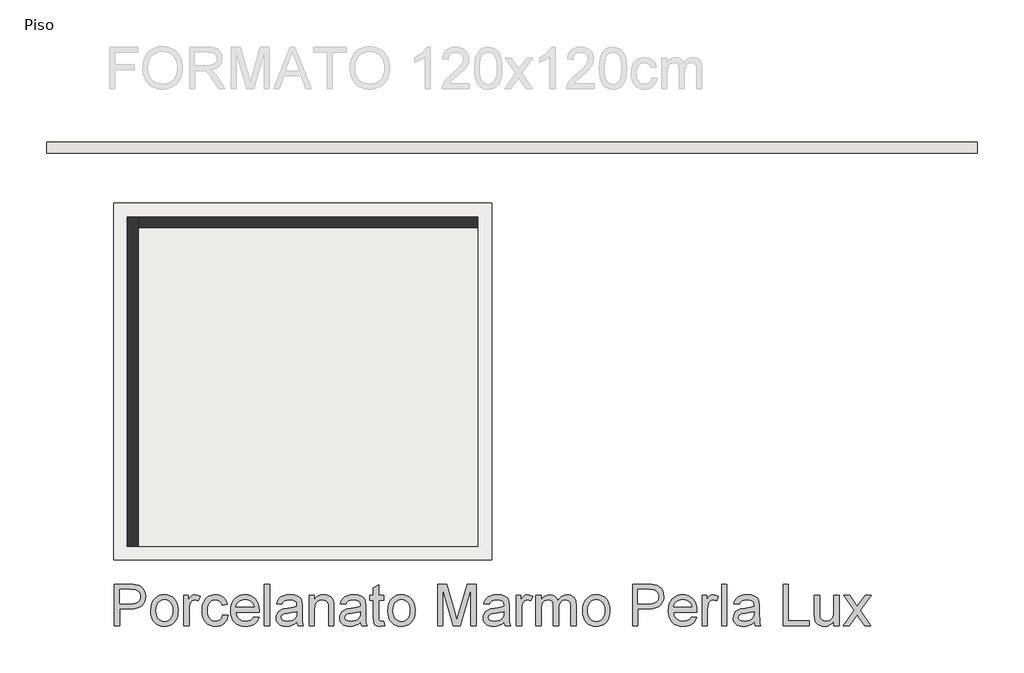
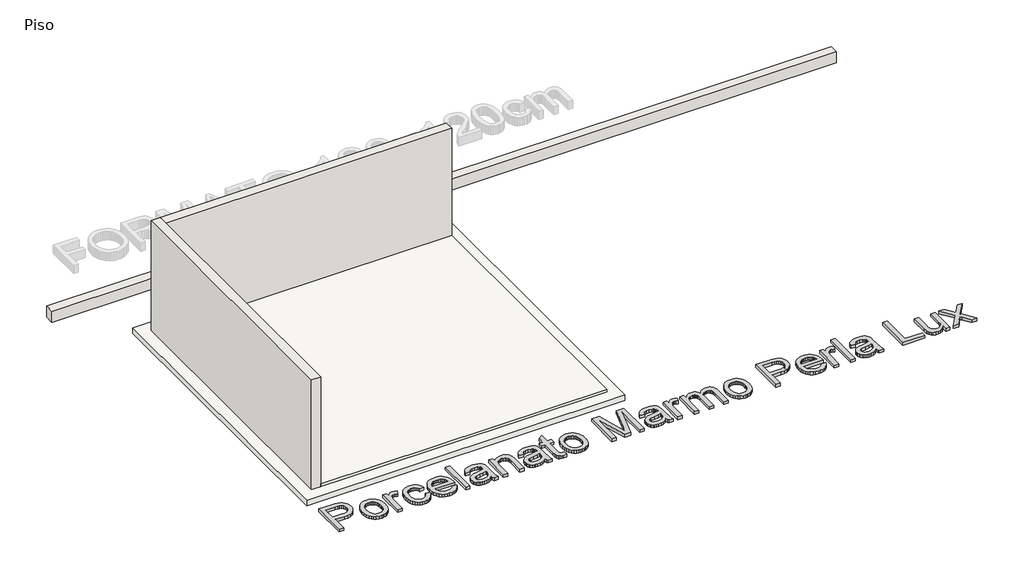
# One storey, part 1 of 2: 3 walls, 2 slabs, 1 proxy.
"""IFC4 building model written with IfcOpenShell, lengths in millimetres."""

from ifc_helpers import new_model, si_unit, frame, origin, origin_with_axes, place, context, project, spatial, polyline, outline, extrude, faceted_brep, element, save

model = new_model("IFC4")

# Units and contexts
model_context = context("Model", 3, world=origin())
ifc_project = project(units=[si_unit("LENGTHUNIT", "METRE", prefix="MILLI")], contexts=[model_context])

# Site, building, storey
site = spatial("IfcSite", under=ifc_project)
building = spatial("IfcBuilding", under=site)
storey = spatial("IfcBuildingStorey", under=building, Name="Piso", Elevation=0.0)

# Proxy
placement = place(None, origin())
element("IfcBuildingElementProxy", 1, Name="600mm Arial", ObjectType="600mm Arial", at=placement, inside=storey, context=model_context, shape_type="SweptSolid", body=[
    extrude(outline(polyline([(92670.4066074, -5092.68876), (92670.4066074, -4489.9508991), (92893.7845549, -4489.9508991), (92945.803069, -4491.3856389), (92983.8420673, -4495.6898582), (93023.9963871, -4506.4136184), (93057.0505843, -4523.869619), (93083.6668467, -4548.8488065), (93104.5073617, -4582.1421271), (93117.9718427, -4621.4135301), (93122.4600031, -4664.3269648), (93119.4295751, -4701.3266965), (93110.3382913, -4735.3649781), (93095.1861516, -4766.4418096), (93073.9731561, -4794.5571911), (93044.8506977, -4817.8625155), (93005.9701693, -4834.5091758), (92957.331571, -4844.4971719), (92898.9349028, -4847.826504), (92745.74884, -4847.826504), (92745.74884, -5092.68876), (92670.4066074, -5092.68876)]), holes=[polyline([(92745.74884, -4772.4842714), (92903.3494867, -4772.4842714), (92939.5858633, -4770.755226), (92970.1568571, -4765.5680899), (92995.0624681, -4756.922863), (93014.3026965, -4744.8195453), (93028.6592913, -4729.5800337), (93038.914002, -4711.5262248), (93045.0668283, -4690.6581186), (93047.1177704, -4666.9757152), (93042.2801222, -4633.1305716), (93027.7671775, -4604.5829288), (93005.3815581, -4583.0986203), (92976.9258858, -4570.4434796), (92947.8632082, -4566.5807187), (92901.5836532, -4565.2931317), (92745.74884, -4565.2931317), (92745.74884, -4772.4842714)])]), origin_with_axes(), (0.0, 0.0, 1.0), 50.0),
    extrude(outline(polyline([(93197.8022357, -4871.3709517), (93201.8765288, -4814.0457398), (93214.0994081, -4764.6483849), (93234.4708735, -4723.178887), (93262.9909252, -4689.6372461), (93291.7041149, -4668.1989228), (93323.3971488, -4652.8858348), (93358.0700269, -4643.6979819), (93395.7227491, -4640.6353643), (93437.288816, -4644.364768), (93474.8725603, -4655.5529792), (93508.4739821, -4674.1999978), (93538.0930812, -4700.3058239), (93562.2675268, -4732.9875407), (93579.534988, -4771.3622313), (93589.8954647, -4815.4298958), (93593.3489569, -4865.1905342), (93591.8222466, -4905.5195979), (93587.2421158, -4941.305319), (93579.6085644, -4972.5476974), (93568.9215924, -4999.2467332), (93555.3145571, -5022.3083358), (93538.9208157, -5042.6384145), (93519.7403682, -5060.2369695), (93497.7732145, -5075.1040006), (93473.8746804, -5086.9176112), (93448.9000915, -5095.3559045), (93422.8494477, -5100.4188804), (93395.7227491, -5102.1065391), (93353.5496769, -5098.3909309), (93315.6164446, -5087.2441065), (93281.9230524, -5068.6660657), (93252.4695002, -5042.6568086), (93228.5525719, -5009.6577937), (93211.4690518, -4970.1104792), (93201.2189397, -4924.0148652), (93197.8022357, -4871.3709517)]), holes=[polyline([(93273.1444683, -4871.2237989), (93275.3241691, -4907.7682766), (93281.8632716, -4939.4107267), (93292.7617757, -4966.1511492), (93308.0196814, -4987.9895442), (93326.5793281, -5004.9535027), (93347.3830549, -5017.0706159), (93370.4308619, -5024.3408838), (93395.7227491, -5026.7643065), (93420.8858775, -5024.3270882), (93443.841714, -5017.0154336), (93464.5902586, -5004.8293425), (93483.1315111, -4987.768815), (93498.3894169, -4965.7142894), (93509.287921, -4938.546204), (93515.8270235, -4906.2645589), (93518.0067243, -4868.8693541), (93515.8132279, -4833.4837047), (93509.2327387, -4802.6689891), (93498.2652567, -4776.4252073), (93482.9107819, -4754.7523592), (93464.3005515, -4737.7884007), (93443.5658026, -4725.6712875), (93420.7065351, -4718.4010196), (93395.7227491, -4715.9775969), (93370.4308619, -4718.3918225), (93347.3830549, -4725.6344993), (93326.5793281, -4737.7056273), (93308.0196814, -4754.6052064), (93292.7617757, -4776.379222), (93281.8632716, -4803.0736593), (93275.3241691, -4834.6885182), (93273.1444683, -4871.2237989)])]), origin_with_axes(), (0.0, 0.0, 1.0), 50.0),
    extrude(outline(polyline([(93678.1089686, -5092.68876), (93678.1089686, -4650.0531434), (93744.0334221, -4650.0531434), (93744.0334221, -4715.5361385), (93768.3872102, -4677.5707166), (93790.8280119, -4655.2034913), (93813.34239, -4644.2773961), (93837.9169073, -4640.6353643), (93875.4408708, -4646.4478998), (93913.5534455, -4663.8855064), (93888.390317, -4731.4286407), (93861.9028134, -4719.8403579), (93835.4153097, -4715.9775969), (93812.9193257, -4719.6932051), (93792.8145747, -4730.8400295), (93776.5725846, -4748.5719417), (93765.6648834, -4772.042813), (93756.5046217, -4814.1285132), (93753.4512012, -4860.0401862), (93753.4512012, -5092.68876), (93678.1089686, -5092.68876)])), origin_with_axes(), (0.0, 0.0, 1.0), 50.0),
    extrude(outline(polyline([(94243.1757132, -4932.5865157), (94318.5179458, -4942.0042948), (94310.3233743, -4977.5554911), (94297.5118839, -5009.0140002), (94280.0834743, -5036.3798221), (94258.0381458, -5059.6529568), (94232.3048002, -5078.2263991), (94203.8123397, -5091.4931435), (94172.5607642, -5099.4531902), (94138.5500737, -5102.1065391), (94096.2942281, -5098.4047265), (94058.4069811, -5087.2992888), (94024.8883328, -5068.7902259), (93995.7382832, -5042.8775378), (93972.1432517, -5010.0486683), (93955.2896578, -4970.7910609), (93945.1775015, -4925.1047156), (93941.8067827, -4872.9896325), (93947.5641359, -4805.9431388), (93954.7608275, -4775.7722167), (93964.8361956, -4747.8361777), (93977.8592182, -4722.6960419), (93993.8988732, -4700.9128292), (94012.9551606, -4682.4865398), (94035.0280803, -4667.4171736), (94059.1197525, -4655.700132), (94084.2322972, -4647.3308166), (94110.3657144, -4642.3092274), (94137.5200042, -4640.6353643), (94170.9466819, -4642.9346268), (94201.1819834, -4649.8324142), (94228.2259086, -4661.3287265), (94252.0784575, -4677.4235638), (94272.3349598, -4697.7490441), (94288.5907455, -4721.9372852), (94300.8458144, -4749.9882874), (94309.1001667, -4781.9020505), (94233.7579341, -4791.3198295), (94220.091118, -4758.4495733), (94198.8091445, -4734.8867315), (94171.0892362, -4720.7048806), (94138.1086153, -4715.9775969), (94112.508627, -4718.3044505), (94089.4194333, -4725.2850114), (94068.8410342, -4736.9192795), (94050.7734297, -4753.2072548), (94036.0627484, -4774.5260165), (94025.5551189, -4801.2526434), (94019.2505412, -4833.3871357), (94017.1490153, -4870.9294933), (94019.204556, -4909.0374695), (94025.3711779, -4941.5444423), (94035.6488812, -4968.4504117), (94050.0376657, -4989.7553777), (94067.7465852, -5005.946784), (94087.9846935, -5017.5120743), (94110.7519905, -5024.4512484), (94136.0484762, -5026.7643065), (94175.0623618, -5020.9885591), (94191.9343498, -5013.768875), (94207.0497012, -5003.6613172), (94219.9853519, -4990.5555211), (94230.3182374, -4974.3411221), (94238.0483579, -4955.0181203), (94243.1757132, -4932.5865157)])), origin_with_axes(), (0.0, 0.0, 1.0), 50.0),
    extrude(outline(polyline([(94694.3461921, -4960.8398529), (94768.2168967, -4970.257632), (94756.8907298, -4999.8445415), (94741.6006343, -5025.9181779), (94722.3466104, -5048.4785412), (94699.128658, -5067.5256315), (94672.1859004, -5082.6547786), (94641.7574608, -5093.4613122), (94607.8433394, -5099.9452323), (94570.4435361, -5102.1065391), (94523.6949315, -5098.3771353), (94482.0414926, -5087.1889242), (94445.4832194, -5068.5419055), (94414.0201117, -5042.4360794), (94388.7190275, -5009.5980129), (94370.6468245, -4970.7542727), (94359.8035027, -4925.9048589), (94356.1890621, -4875.0497716), (94359.8402909, -4822.4702375), (94370.7939773, -4776.1263031), (94389.0501213, -4736.0179686), (94414.6087229, -4702.1452339), (94445.9890571, -4675.234666), (94481.7103988, -4656.0128317), (94521.7727481, -4644.4797312), (94566.1761049, -4640.6353643), (94609.1493205, -4644.4705341), (94648.0114548, -4655.9760435), (94682.7625077, -4675.1518925), (94713.4024794, -4701.9980811), (94738.4138566, -4735.7972394), (94756.2791259, -4775.8319975), (94766.9982876, -4822.1023555), (94770.5713415, -4874.6083132), (94770.1298831, -4894.9153994), (94431.5312947, -4894.9153994), (94435.8952949, -4924.9805554), (94444.5727114, -4951.3117092), (94457.5635444, -4973.9088608), (94474.8677937, -4992.7720101), (94495.5289663, -5007.6436398), (94518.5905689, -5018.2662324), (94544.0526014, -5024.6397879), (94571.9150641, -5026.7643065), (94612.0142015, -5022.8279691), (94645.7857687, -5011.0189571), (94673.2297655, -4990.6015063), (94694.3461921, -4960.8398529)]), holes=[polyline([(94431.5312947, -4819.5731668), (94695.2291088, -4819.5731668), (94685.0387776, -4779.7683349), (94676.273989, -4764.114956), (94665.0627852, -4751.2942685), (94644.5165758, -4735.8432247), (94621.137675, -4724.8067648), (94594.9260829, -4718.1848889), (94565.8817993, -4715.9775969), (94539.3896972, -4717.738832), (94515.0956899, -4723.0225371), (94492.9997776, -4731.8287124), (94473.1019602, -4744.1573578), (94456.4047161, -4759.4382561), (94443.9105238, -4777.1011904), (94435.6193834, -4797.1461606), (94431.5312947, -4819.5731668)])]), origin_with_axes(), (0.0, 0.0, 1.0), 50.0),
    extrude(outline(polyline([(94845.9135741, -5092.68876), (94845.9135741, -4489.9508991), (94921.2558067, -4489.9508991), (94921.2558067, -5092.68876), (94845.9135741, -5092.68876)])), origin_with_axes(), (0.0, 0.0, 1.0), 50.0),
    extrude(outline(polyline([(95316.8025279, -5036.1820855), (95280.8052747, -5067.0473849), (95243.7411637, -5087.2441065), (95204.7640663, -5098.3909309), (95163.0278539, -5102.1065391), (95129.4816145, -5099.8716559), (95100.0648504, -5093.1670066), (95074.7775618, -5081.992591), (95053.6197485, -5066.3484091), (95036.9133074, -5047.2277424), (95024.9801352, -5025.6238723), (95017.8202319, -5001.5367986), (95015.4335974, -4974.9665215), (95019.038841, -4943.7333401), (95029.8545717, -4915.3696383), (95046.5380201, -4891.0894266), (95067.7464172, -4872.1067157), (95092.6704223, -4857.7593179), (95120.5006953, -4847.3850456), (95185.6893848, -4836.0542802), (95262.7238746, -4824.1349035), (95316.3610695, -4810.1553877), (95316.8025279, -4793.3799687), (95311.6153918, -4759.7555544), (95305.1314716, -4747.3027488), (95296.0539834, -4737.756211), (95280.3638163, -4728.2280674), (95261.2523466, -4721.4222505), (95212.7654997, -4715.9775969), (95167.8838962, -4719.6012346), (95136.5403503, -4730.4721475), (95115.1664063, -4750.5768986), (95100.1936091, -4781.9020505), (95024.8513765, -4772.4842714), (95037.9295814, -4731.2814879), (95057.4457213, -4698.9078723), (95085.2208119, -4674.1494141), (95123.0758692, -4655.7921025), (95169.3738183, -4644.4245489), (95222.4775843, -4640.6353643), (95273.4108466, -4643.9830905), (95313.7858955, -4654.0262689), (95344.2281306, -4669.1278248), (95365.3629513, -4687.6506833), (95379.3792553, -4710.5513375), (95388.4659406, -4738.7862806), (95392.1447605, -4804.7107342), (95392.1447605, -4898.4470665), (95395.9707333, -5029.3394804), (95401.636116, -5061.6947019), (95410.9803187, -5092.68876), (95335.638086, -5092.68876), (95323.5715566, -5066.4955619), (95316.8025279, -5036.1820855)]), holes=[polyline([(95316.8025279, -4885.4976203), (95266.1819654, -4898.0423963), (95195.2543167, -4908.6006096), (95130.4335091, -4920.8142918), (95113.5661197, -4929.1652131), (95101.0765259, -4940.6799196), (95093.351004, -4954.4754944), (95090.7758301, -4969.6690208), (95096.3860305, -4992.0730343), (95113.2166318, -5010.4303459), (95140.8997519, -5022.6808163), (95179.0675089, -5026.7643065), (95219.5345284, -5022.257752), (95255.2926583, -5008.7380887), (95284.2817595, -4988.8172786), (95304.4416929, -4965.1072841), (95313.3812253, -4940.6799196), (95316.3610695, -4906.834776), (95316.8025279, -4885.4976203)])]), origin_with_axes(), (0.0, 0.0, 1.0), 50.0),
    extrude(outline(polyline([(95495.7403303, -5092.68876), (95495.7403303, -4650.0531434), (95571.082563, -4650.0531434), (95571.082563, -4711.8573186), (95597.2573669, -4680.6977136), (95628.6928834, -4658.4408529), (95665.3891124, -4645.0867365), (95707.346054, -4640.6353643), (95744.4837414, -4644.2222138), (95778.4944318, -4654.9827621), (95806.8581337, -4671.5742401), (95827.0548552, -4692.6538784), (95840.7584595, -4718.1664948), (95849.6428097, -4748.0569069), (95853.6159353, -4820.897542), (95853.6159353, -5092.68876), (95778.2737026, -5092.68876), (95778.2737026, -4831.051085), (95776.1031989, -4792.0923817), (95769.5916876, -4764.3908675), (95757.5803404, -4744.5436339), (95738.9103292, -4729.1477724), (95714.9796054, -4719.2701408), (95687.1861206, -4715.9775969), (95664.3084591, -4717.826204), (95643.0586753, -4723.372025), (95623.4367694, -4732.6150602), (95605.4427413, -4745.5553093), (95590.4101633, -4763.6643006), (95579.6726075, -4788.4135618), (95573.2300741, -4819.803093), (95571.082563, -4857.8328943), (95571.082563, -5092.68876), (95495.7403303, -5092.68876)])), origin_with_axes(), (0.0, 0.0, 1.0), 50.0),
    extrude(outline(polyline([(96239.7448774, -5036.1820855), (96203.7476242, -5067.0473849), (96166.6835131, -5087.2441065), (96127.7064158, -5098.3909309), (96085.9702034, -5102.1065391), (96052.423964, -5099.8716559), (96023.0071999, -5093.1670066), (95997.7199113, -5081.992591), (95976.562098, -5066.3484091), (95959.8556569, -5047.2277424), (95947.9224847, -5025.6238723), (95940.7625814, -5001.5367986), (95938.3759469, -4974.9665215), (95941.9811905, -4943.7333401), (95952.7969212, -4915.3696383), (95969.4803696, -4891.0894266), (95990.6887667, -4872.1067157), (96015.6127718, -4857.7593179), (96043.4430448, -4847.3850456), (96108.6317343, -4836.0542802), (96185.6662241, -4824.1349035), (96239.303419, -4810.1553877), (96239.7448774, -4793.3799687), (96234.5577413, -4759.7555544), (96228.0738211, -4747.3027488), (96218.9963329, -4737.756211), (96203.3061658, -4728.2280674), (96184.1946961, -4721.4222505), (96135.7078492, -4715.9775969), (96090.8262457, -4719.6012346), (96059.4826998, -4730.4721475), (96038.1087558, -4750.5768986), (96023.1359586, -4781.9020505), (95947.793726, -4772.4842714), (95960.8719309, -4731.2814879), (95980.3880708, -4698.9078723), (96008.1631614, -4674.1494141), (96046.0182187, -4655.7921025), (96092.3161678, -4644.4245489), (96145.4199338, -4640.6353643), (96196.3531961, -4643.9830905), (96236.728245, -4654.0262689), (96267.1704801, -4669.1278248), (96288.3053008, -4687.6506833), (96302.3216048, -4710.5513375), (96311.4082901, -4738.7862806), (96315.08711, -4804.7107342), (96315.08711, -4898.4470665), (96318.9130828, -5029.3394804), (96324.5784655, -5061.6947019), (96333.9226682, -5092.68876), (96258.5804355, -5092.68876), (96246.5139061, -5066.4955619), (96239.7448774, -5036.1820855)]), holes=[polyline([(96239.7448774, -4885.4976203), (96189.1243149, -4898.0423963), (96118.1966662, -4908.6006096), (96053.3758586, -4920.8142918), (96036.5084692, -4929.1652131), (96024.0188754, -4940.6799196), (96016.2933535, -4954.4754944), (96013.7181796, -4969.6690208), (96019.32838, -4992.0730343), (96036.1589813, -5010.4303459), (96063.8421014, -5022.6808163), (96102.0098584, -5026.7643065), (96142.4768779, -5022.257752), (96178.2350078, -5008.7380887), (96207.224109, -4988.8172786), (96227.3840424, -4965.1072841), (96236.3235748, -4940.6799196), (96239.303419, -4906.834776), (96239.7448774, -4885.4976203)])]), origin_with_axes(), (0.0, 0.0, 1.0), 50.0),
    extrude(outline(polyline([(96578.7849241, -5029.8545152), (96588.2027032, -5094.896052), (96531.8431816, -5102.1065391), (96495.6803814, -5098.9795421), (96468.7146312, -5089.5985512), (96449.6583438, -5075.1407888), (96437.2239324, -5056.7834773), (96430.3813273, -5025.2559903), (96428.1004589, -4971.2877016), (96428.1004589, -4725.395376), (96371.5937845, -4725.395376), (96371.5937845, -4650.0531434), (96428.1004589, -4650.0531434), (96428.1004589, -4542.484448), (96503.4426915, -4498.1914558), (96503.4426915, -4650.0531434), (96578.7849241, -4650.0531434), (96578.7849241, -4725.395376), (96503.4426915, -4725.395376), (96503.4426915, -4969.0804096), (96507.4158171, -5007.9287483), (96520.2916869, -5021.6875349), (96531.1625999, -5025.4951136), (96545.9698502, -5026.7643065), (96578.7849241, -5029.8545152)])), origin_with_axes(), (0.0, 0.0, 1.0), 50.0),
    extrude(outline(polyline([(96635.2915986, -4871.3709517), (96639.3658917, -4814.0457398), (96651.588771, -4764.6483849), (96671.9602365, -4723.178887), (96700.4802882, -4689.6372461), (96729.1934779, -4668.1989228), (96760.8865118, -4652.8858348), (96795.5593898, -4643.6979819), (96833.212112, -4640.6353643), (96874.7781789, -4644.364768), (96912.3619233, -4655.5529792), (96945.963345, -4674.1999978), (96975.5824441, -4700.3058239), (96999.7568898, -4732.9875407), (97017.0243509, -4771.3622313), (97027.3848276, -4815.4298958), (97030.8383198, -4865.1905342), (97029.3116095, -4905.5195979), (97024.7314787, -4941.305319), (97017.0979273, -4972.5476974), (97006.4109553, -4999.2467332), (96992.80392, -5022.3083358), (96976.4101786, -5042.6384145), (96957.2297311, -5060.2369695), (96935.2625775, -5075.1040006), (96911.3640434, -5086.9176112), (96886.3894544, -5095.3559045), (96860.3388106, -5100.4188804), (96833.212112, -5102.1065391), (96791.0390398, -5098.3909309), (96753.1058076, -5087.2441065), (96719.4124153, -5068.6660657), (96689.9588631, -5042.6568086), (96666.0419349, -5009.6577937), (96648.9584147, -4970.1104792), (96638.7083026, -4924.0148652), (96635.2915986, -4871.3709517)]), holes=[polyline([(96710.6338312, -4871.2237989), (96712.813532, -4907.7682766), (96719.3526345, -4939.4107267), (96730.2511386, -4966.1511492), (96745.5090444, -4987.9895442), (96764.068691, -5004.9535027), (96784.8724178, -5017.0706159), (96807.9202248, -5024.3408838), (96833.212112, -5026.7643065), (96858.3752405, -5024.3270882), (96881.331077, -5017.0154336), (96902.0796215, -5004.8293425), (96920.6208741, -4987.768815), (96935.8787798, -4965.7142894), (96946.7772839, -4938.546204), (96953.3163864, -4906.2645589), (96955.4960872, -4868.8693541), (96953.3025908, -4833.4837047), (96946.7221016, -4802.6689891), (96935.7546196, -4776.4252073), (96920.4001449, -4754.7523592), (96901.7899144, -4737.7884007), (96881.0551655, -4725.6712875), (96858.195898, -4718.4010196), (96833.212112, -4715.9775969), (96807.9202248, -4718.3918225), (96784.8724178, -4725.6344993), (96764.068691, -4737.7056273), (96745.5090444, -4754.6052064), (96730.2511386, -4776.379222), (96719.3526345, -4803.0736593), (96712.813532, -4834.6885182), (96710.6338312, -4871.2237989)])]), origin_with_axes(), (0.0, 0.0, 1.0), 50.0),
    extrude(outline(polyline([(97360.4605875, -5092.68876), (97360.4605875, -4489.9508991), (97490.1022026, -4489.9508991), (97613.4162474, -4914.7810271), (97638.2850703, -5003.5141644), (97665.2140323, -4907.4233872), (97786.4679379, -4489.9508991), (97916.109553, -4489.9508991), (97916.109553, -5092.68876), (97840.7673204, -5092.68876), (97840.7673204, -4565.2931317), (97689.3470912, -5092.68876), (97587.2230493, -5092.68876), (97435.8028201, -4565.2931317), (97435.8028201, -5092.68876), (97360.4605875, -5092.68876)])), origin_with_axes(), (0.0, 0.0, 1.0), 50.0),
    extrude(outline(polyline([(98321.0740533, -5036.1820855), (98285.0768001, -5067.0473849), (98248.0126891, -5087.2441065), (98209.0355917, -5098.3909309), (98167.2993793, -5102.1065391), (98133.7531399, -5099.8716559), (98104.3363758, -5093.1670066), (98079.0490872, -5081.992591), (98057.891274, -5066.3484091), (98041.1848328, -5047.2277424), (98029.2516606, -5025.6238723), (98022.0917573, -5001.5367986), (98019.7051229, -4974.9665215), (98023.3103664, -4943.7333401), (98034.1260971, -4915.3696383), (98050.8095455, -4891.0894266), (98072.0179426, -4872.1067157), (98096.9419477, -4857.7593179), (98124.7722207, -4847.3850456), (98189.9609102, -4836.0542802), (98266.9954, -4824.1349035), (98320.6325949, -4810.1553877), (98321.0740533, -4793.3799687), (98315.8869172, -4759.7555544), (98309.402997, -4747.3027488), (98300.3255088, -4737.756211), (98284.6353417, -4728.2280674), (98265.523872, -4721.4222505), (98217.0370251, -4715.9775969), (98172.1554217, -4719.6012346), (98140.8118757, -4730.4721475), (98119.4379317, -4750.5768986), (98104.4651345, -4781.9020505), (98029.1229019, -4772.4842714), (98042.2011069, -4731.2814879), (98061.7172467, -4698.9078723), (98089.4923373, -4674.1494141), (98127.3473946, -4655.7921025), (98173.6453437, -4644.4245489), (98226.7491097, -4640.6353643), (98277.682372, -4643.9830905), (98318.0574209, -4654.0262689), (98348.499656, -4669.1278248), (98369.6344767, -4687.6506833), (98383.6507807, -4710.5513375), (98392.737466, -4738.7862806), (98396.4162859, -4804.7107342), (98396.4162859, -4898.4470665), (98400.2422587, -5029.3394804), (98405.9076414, -5061.6947019), (98415.2518441, -5092.68876), (98339.9096115, -5092.68876), (98327.843082, -5066.4955619), (98321.0740533, -5036.1820855)]), holes=[polyline([(98321.0740533, -4885.4976203), (98270.4534908, -4898.0423963), (98199.5258421, -4908.6006096), (98134.7050345, -4920.8142918), (98117.8376451, -4929.1652131), (98105.3480513, -4940.6799196), (98097.6225294, -4954.4754944), (98095.0473555, -4969.6690208), (98100.6575559, -4992.0730343), (98117.4881572, -5010.4303459), (98145.1712773, -5022.6808163), (98183.3390343, -5026.7643065), (98223.8060538, -5022.257752), (98259.5641837, -5008.7380887), (98288.5532849, -4988.8172786), (98308.7132183, -4965.1072841), (98317.6527507, -4940.6799196), (98320.6325949, -4906.834776), (98321.0740533, -4885.4976203)])]), origin_with_axes(), (0.0, 0.0, 1.0), 50.0),
    extrude(outline(polyline([(98500.0118558, -5092.68876), (98500.0118558, -4650.0531434), (98565.9363093, -4650.0531434), (98565.9363093, -4715.5361385), (98590.2900974, -4677.5707166), (98612.7308991, -4655.2034913), (98635.2452772, -4644.2773961), (98659.8197945, -4640.6353643), (98697.343758, -4646.4478998), (98735.4563327, -4663.8855064), (98710.2932042, -4731.4286407), (98683.8057005, -4719.8403579), (98657.3181969, -4715.9775969), (98634.8222129, -4719.6932051), (98614.7174619, -4730.8400295), (98598.4754718, -4748.5719417), (98587.5677706, -4772.042813), (98578.4075089, -4814.1285132), (98575.3540884, -4860.0401862), (98575.3540884, -5092.68876), (98500.0118558, -5092.68876)])), origin_with_axes(), (0.0, 0.0, 1.0), 50.0),
    extrude(outline(polyline([(98782.5452281, -5092.68876), (98782.5452281, -4650.0531434), (98857.8874607, -4650.0531434), (98857.8874607, -4722.8937784), (98880.5489916, -4689.434911), (98909.6852456, -4663.2233188), (98944.3029413, -4646.2823529), (98983.4087974, -4640.6353643), (99025.3105567, -4646.3927175), (99043.1436364, -4653.5894091), (99058.8981828, -4663.6647772), (99083.9877349, -4691.3111091), (99100.3952719, -4728.1912792), (99127.8576628, -4689.8855664), (99159.1828147, -4662.524343), (99194.3707276, -4646.107609), (99233.4214013, -4640.6353643), (99263.5831264, -4642.9116342), (99290.0568345, -4649.7404437), (99312.8425256, -4661.1217929), (99331.9401997, -4677.0556818), (99347.037157, -4697.7260514), (99357.820698, -4723.3168427), (99364.2908226, -4753.8280557), (99366.4475308, -4789.2596904), (99366.4475308, -5092.68876), (99291.1052982, -5092.68876), (99291.1052982, -4821.6333059), (99289.3578587, -4784.0541601), (99284.1155403, -4758.7254848), (99274.293091, -4741.3798487), (99258.805259, -4727.7498208), (99238.884449, -4718.9206529), (99215.7630656, -4715.9775969), (99194.4121143, -4717.8629922), (99174.9465582, -4723.5191778), (99157.3663974, -4732.946154), (99141.6716317, -4746.1439205), (99128.7635722, -4763.4987537), (99119.5435297, -4785.3969294), (99114.0115042, -4811.8384478), (99112.1674957, -4842.8233089), (99112.1674957, -5092.68876), (99036.8252631, -5092.68876), (99036.8252631, -4813.2455965), (99032.4658615, -4770.6448614), (99027.0166094, -4753.9246247), (99019.3876565, -4740.2578086), (99009.2755002, -4729.635216), (98996.3766378, -4722.0476498), (98980.6910692, -4717.4951102), (98962.2187945, -4715.9775969), (98933.1929051, -4720.0242989), (98906.447884, -4732.1644047), (98884.3749643, -4752.1036089), (98869.3653789, -4779.5476057), (98860.7569402, -4817.6233922), (98857.8874607, -4869.4579653), (98857.8874607, -5092.68876), (98782.5452281, -5092.68876)])), origin_with_axes(), (0.0, 0.0, 1.0), 50.0),
    extrude(outline(polyline([(99460.6253216, -4871.3709517), (99464.6996147, -4814.0457398), (99476.9224939, -4764.6483849), (99497.2939594, -4723.178887), (99525.8140111, -4689.6372461), (99554.5272008, -4668.1989228), (99586.2202347, -4652.8858348), (99620.8931128, -4643.6979819), (99658.545835, -4640.6353643), (99700.1119019, -4644.364768), (99737.6956462, -4655.5529792), (99771.297068, -4674.1999978), (99800.9161671, -4700.3058239), (99825.0906127, -4732.9875407), (99842.3580739, -4771.3622313), (99852.7185505, -4815.4298958), (99856.1720428, -4865.1905342), (99854.6453325, -4905.5195979), (99850.0652017, -4941.305319), (99842.4316503, -4972.5476974), (99831.7446783, -4999.2467332), (99818.137643, -5022.3083358), (99801.7439016, -5042.6384145), (99782.5634541, -5060.2369695), (99760.5963004, -5075.1040006), (99736.6977663, -5086.9176112), (99711.7231774, -5095.3559045), (99685.6725336, -5100.4188804), (99658.545835, -5102.1065391), (99616.3727627, -5098.3909309), (99578.4395305, -5087.2441065), (99544.7461383, -5068.6660657), (99515.292586, -5042.6568086), (99491.3756578, -5009.6577937), (99474.2921377, -4970.1104792), (99464.0420256, -4924.0148652), (99460.6253216, -4871.3709517)]), holes=[polyline([(99535.9675542, -4871.2237989), (99538.147255, -4907.7682766), (99544.6863575, -4939.4107267), (99555.5848616, -4966.1511492), (99570.8427673, -4987.9895442), (99589.402414, -5004.9535027), (99610.2061408, -5017.0706159), (99633.2539478, -5024.3408838), (99658.545835, -5026.7643065), (99683.7089634, -5024.3270882), (99706.6647999, -5017.0154336), (99727.4133445, -5004.8293425), (99745.954597, -4987.768815), (99761.2125028, -4965.7142894), (99772.1110069, -4938.546204), (99778.6501093, -4906.2645589), (99780.8298102, -4868.8693541), (99778.6363138, -4833.4837047), (99772.0558246, -4802.6689891), (99761.0883426, -4776.4252073), (99745.7338678, -4754.7523592), (99727.1236374, -4737.7884007), (99706.3888884, -4725.6712875), (99683.529621, -4718.4010196), (99658.545835, -4715.9775969), (99633.2539478, -4718.3918225), (99610.2061408, -4725.6344993), (99589.402414, -4737.7056273), (99570.8427673, -4754.6052064), (99555.5848616, -4776.379222), (99544.6863575, -4803.0736593), (99538.147255, -4834.6885182), (99535.9675542, -4871.2237989)])]), origin_with_axes(), (0.0, 0.0, 1.0), 50.0),
    extrude(outline(polyline([(100185.7943105, -5092.68876), (100185.7943105, -4489.9508991), (100409.1722579, -4489.9508991), (100461.190772, -4491.3856389), (100499.2297703, -4495.6898582), (100539.3840901, -4506.4136184), (100572.4382874, -4523.869619), (100599.0545497, -4548.8488065), (100619.8950648, -4582.1421271), (100633.3595458, -4621.4135301), (100637.8477061, -4664.3269648), (100634.8172782, -4701.3266965), (100625.7259944, -4735.3649781), (100610.5738547, -4766.4418096), (100589.3608592, -4794.5571911), (100560.2384007, -4817.8625155), (100521.3578724, -4834.5091758), (100472.7192741, -4844.4971719), (100414.3226059, -4847.826504), (100261.1365431, -4847.826504), (100261.1365431, -5092.68876), (100185.7943105, -5092.68876)]), holes=[polyline([(100261.1365431, -4772.4842714), (100418.7371898, -4772.4842714), (100454.9735663, -4770.755226), (100485.5445601, -4765.5680899), (100510.4501712, -4756.922863), (100529.6903995, -4744.8195453), (100544.0469944, -4729.5800337), (100554.301705, -4711.5262248), (100560.4545314, -4690.6581186), (100562.5054735, -4666.9757152), (100557.6678253, -4633.1305716), (100543.1548806, -4604.5829288), (100520.7692612, -4583.0986203), (100492.3135888, -4570.4434796), (100463.2509112, -4566.5807187), (100416.9713562, -4565.2931317), (100261.1365431, -4565.2931317), (100261.1365431, -4772.4842714)])]), origin_with_axes(), (0.0, 0.0, 1.0), 50.0),
    extrude(outline(polyline([(101041.9292896, -4960.8398529), (101115.7999943, -4970.257632), (101104.4738273, -4999.8445415), (101089.1837319, -5025.9181779), (101069.929708, -5048.4785412), (101046.7117556, -5067.5256315), (101019.7689979, -5082.6547786), (100989.3405584, -5093.4613122), (100955.426437, -5099.9452323), (100918.0266337, -5102.1065391), (100871.2780291, -5098.3771353), (100829.6245902, -5087.1889242), (100793.0663169, -5068.5419055), (100761.6032093, -5042.4360794), (100736.3021251, -5009.5980129), (100718.2299221, -4970.7542727), (100707.3866003, -4925.9048589), (100703.7721597, -4875.0497716), (100707.4233885, -4822.4702375), (100718.3770749, -4776.1263031), (100736.6332189, -4736.0179686), (100762.1918205, -4702.1452339), (100793.5721547, -4675.234666), (100829.2934964, -4656.0128317), (100869.3558457, -4644.4797312), (100913.7592025, -4640.6353643), (100956.7324181, -4644.4705341), (100995.5945523, -4655.9760435), (101030.3456053, -4675.1518925), (101060.985577, -4701.9980811), (101085.9969541, -4735.7972394), (101103.8622235, -4775.8319975), (101114.5813852, -4822.1023555), (101118.154439, -4874.6083132), (101117.7129806, -4894.9153994), (100779.1143923, -4894.9153994), (100783.4783924, -4924.9805554), (100792.155809, -4951.3117092), (100805.146642, -4973.9088608), (100822.4508913, -4992.7720101), (100843.1120639, -5007.6436398), (100866.1736664, -5018.2662324), (100891.635699, -5024.6397879), (100919.4981616, -5026.7643065), (100959.5972991, -5022.8279691), (100993.3688663, -5011.0189571), (101020.8128631, -4990.6015063), (101041.9292896, -4960.8398529)]), holes=[polyline([(100779.1143923, -4819.5731668), (101042.8122064, -4819.5731668), (101032.6218752, -4779.7683349), (101023.8570866, -4764.114956), (101012.6458828, -4751.2942685), (100992.0996734, -4735.8432247), (100968.7207726, -4724.8067648), (100942.5091804, -4718.1848889), (100913.4648969, -4715.9775969), (100886.9727947, -4717.738832), (100862.6787875, -4723.0225371), (100840.5828751, -4731.8287124), (100820.6850577, -4744.1573578), (100803.9878137, -4759.4382561), (100791.4936214, -4777.1011904), (100783.2024809, -4797.1461606), (100779.1143923, -4819.5731668)])]), origin_with_axes(), (0.0, 0.0, 1.0), 50.0),
    extrude(outline(polyline([(101193.4966716, -5092.68876), (101193.4966716, -4650.0531434), (101259.4211252, -4650.0531434), (101259.4211252, -4715.5361385), (101283.7749133, -4677.5707166), (101306.215715, -4655.2034913), (101328.7300931, -4644.2773961), (101353.3046103, -4640.6353643), (101390.8285739, -4646.4478998), (101428.9411486, -4663.8855064), (101403.7780201, -4731.4286407), (101377.2905164, -4719.8403579), (101350.8030128, -4715.9775969), (101328.3070288, -4719.6932051), (101308.2022777, -4730.8400295), (101291.9602877, -4748.5719417), (101281.0525865, -4772.042813), (101271.8923248, -4814.1285132), (101268.8389043, -4860.0401862), (101268.8389043, -5092.68876), (101193.4966716, -5092.68876)])), origin_with_axes(), (0.0, 0.0, 1.0), 50.0),
    extrude(outline(polyline([(101476.0300439, -5092.68876), (101476.0300439, -4489.9508991), (101551.3722766, -4489.9508991), (101551.3722766, -5092.68876), (101476.0300439, -5092.68876)])), origin_with_axes(), (0.0, 0.0, 1.0), 50.0),
    extrude(outline(polyline([(101946.9189978, -5036.1820855), (101910.9217445, -5067.0473849), (101873.8576335, -5087.2441065), (101834.8805361, -5098.3909309), (101793.1443238, -5102.1065391), (101759.5980843, -5099.8716559), (101730.1813203, -5093.1670066), (101704.8940317, -5081.992591), (101683.7362184, -5066.3484091), (101667.0297773, -5047.2277424), (101655.0966051, -5025.6238723), (101647.9367018, -5001.5367986), (101645.5500673, -4974.9665215), (101649.1553109, -4943.7333401), (101659.9710415, -4915.3696383), (101676.65449, -4891.0894266), (101697.862887, -4872.1067157), (101722.7868922, -4857.7593179), (101750.6171651, -4847.3850456), (101815.8058547, -4836.0542802), (101892.8403445, -4824.1349035), (101946.4775394, -4810.1553877), (101946.9189978, -4793.3799687), (101941.7318616, -4759.7555544), (101935.2479415, -4747.3027488), (101926.1704532, -4737.756211), (101910.4802861, -4728.2280674), (101891.3688165, -4721.4222505), (101842.8819695, -4715.9775969), (101798.0003661, -4719.6012346), (101766.6568201, -4730.4721475), (101745.2828762, -4750.5768986), (101730.310079, -4781.9020505), (101654.9678464, -4772.4842714), (101668.0460513, -4731.2814879), (101687.5621912, -4698.9078723), (101715.3372818, -4674.1494141), (101753.1923391, -4655.7921025), (101799.4902882, -4644.4245489), (101852.5940542, -4640.6353643), (101903.5273164, -4643.9830905), (101943.9023654, -4654.0262689), (101974.3446005, -4669.1278248), (101995.4794211, -4687.6506833), (102009.4957251, -4710.5513375), (102018.5824104, -4738.7862806), (102022.2612304, -4804.7107342), (102022.2612304, -4898.4470665), (102026.0872031, -5029.3394804), (102031.7525859, -5061.6947019), (102041.0967885, -5092.68876), (101965.7545559, -5092.68876), (101953.6880265, -5066.4955619), (101946.9189978, -5036.1820855)]), holes=[polyline([(101946.9189978, -4885.4976203), (101896.2984352, -4898.0423963), (101825.3707866, -4908.6006096), (101760.549979, -4920.8142918), (101743.6825895, -4929.1652131), (101731.1929958, -4940.6799196), (101723.4674739, -4954.4754944), (101720.8922999, -4969.6690208), (101726.5025004, -4992.0730343), (101743.3331016, -5010.4303459), (101771.0162218, -5022.6808163), (101809.1839788, -5026.7643065), (101849.6509982, -5022.257752), (101885.4091282, -5008.7380887), (101914.3982294, -4988.8172786), (101934.5581627, -4965.1072841), (101943.4976952, -4940.6799196), (101946.4775394, -4906.834776), (101946.9189978, -4885.4976203)])]), origin_with_axes(), (0.0, 0.0, 1.0), 50.0),
    extrude(outline(polyline([(102370.7190562, -5092.68876), (102370.7190562, -4489.9508991), (102446.0612888, -4489.9508991), (102446.0612888, -5017.3465274), (102747.4302193, -5017.3465274), (102747.4302193, -5092.68876), (102370.7190562, -5092.68876)])), origin_with_axes(), (0.0, 0.0, 1.0), 50.0),
    extrude(outline(polyline([(103105.3058242, -5092.68876), (103105.3058242, -5016.6107634), (103078.0457683, -5054.0151652), (103046.2975522, -5080.7325951), (103010.0611756, -5096.7630531), (102969.3366388, -5102.1065391), (102932.6404097, -5098.3541427), (102898.4825665, -5087.0969537), (102869.8245591, -5070.1743819), (102849.6278375, -5049.4258374), (102836.0345978, -5024.2259207), (102827.1870358, -4993.9492325), (102822.7724519, -4923.9045006), (102822.7724519, -4650.0531434), (102898.1146845, -4650.0531434), (102898.1146845, -4888.4406763), (102899.2551187, -4936.1181828), (102902.6764212, -4965.2544369), (102913.6576988, -4990.8774178), (102932.4748628, -5010.3567695), (102957.8771146, -5022.6624222), (102988.6136553, -5026.7643065), (103021.1160296, -5022.5704517), (103051.5214765, -5009.9888875), (103076.5926345, -4990.178442), (103093.0921419, -4964.2979437), (103102.2524036, -4928.8525134), (103105.3058242, -4880.3472724), (103105.3058242, -4650.0531434), (103180.6480568, -4650.0531434), (103180.6480568, -5092.68876), (103105.3058242, -5092.68876)])), origin_with_axes(), (0.0, 0.0, 1.0), 50.0),
    extrude(outline(polyline([(103237.1547313, -5092.68876), (103398.1398923, -4870.1937293), (103246.5725103, -4650.0531434), (103337.2186339, -4650.0531434), (103410.3535746, -4756.003158), (103444.4930237, -4806.0351093), (103474.0707361, -4765.1266315), (103557.3592199, -4650.0531434), (103648.0053435, -4650.0531434), (103488.786016, -4870.1937293), (103642.1192315, -5092.68876), (103551.4731079, -5092.68876), (103459.2083035, -4958.9268665), (103442.2857318, -4934.4995021), (103327.8008549, -5092.68876), (103237.1547313, -5092.68876)])), origin_with_axes(), (0.0, 0.0, 1.0), 50.0),
])

# Slabs
element("IfcSlab", 2, ObjectType="5cm - Porcelanato Marmo Perla Lux  - Polido 120x120", at=placement, inside=storey, context=model_context, shape_type="SweptSolid", body=[
    extrude(outline(polyline([(97940.0968343, 683.4448713), (97940.0968343, -3937.1551287), (93019.4968343, -3937.1551287), (93019.4968343, 683.4448713), (97940.0968343, 683.4448713)])), origin_with_axes(), (0.0, 0.0, 1.0), 50.0),
])
element("IfcSlab", 3, ObjectType="CO02 - Concreto Estrutural Simples", at=placement, inside=storey, context=model_context, shape_type="SweptSolid", body=[
    extrude(outline(polyline([(98140.0968343, 1042.2448713), (98140.0968343, -4137.1551287), (92660.6968343, -4137.1551287), (92660.6968343, 1042.2448713), (98140.0968343, 1042.2448713)])), frame((0.0, 0.0, -100.0), z_axis=(0.0, 0.0, 1.0), x_axis=(1.0, 0.0, 0.0)), (0.0, 0.0, 1.0), 100.0),
])

# Walls
element("IfcWall", 4, ObjectType="CO01 - Bloco de Concreto 14cm / Pintura Branca Simples", at=placement, inside=storey, context=model_context, shape_type="SweptSolid", body=[
    extrude(outline(polyline([(105186.699165, 1765.7486968), (91686.699165, 1765.7486968), (91686.699165, 1924.5486968), (105186.699165, 1924.5486968), (105186.699165, 1765.7486968)])), origin_with_axes(), (0.0, 0.0, 1.0), 200.0),
])
element("IfcWall", 5, ObjectType="CO01 - Bloco de Concreto 14cm / Pintura Branca Simples", at=placement, inside=storey, context=model_context, shape_type="Brep", body=[
    faceted_brep([(93019.4968343, -3937.1551287, 0.0), (93019.4968343, 683.4448713, 0.0), (93019.4968343, 842.2448713, 0.0), (93019.4968343, 842.2448713, 2000.0), (93019.4968343, 683.4448713, 2000.0), (93019.4968343, -3937.1551287, 2000.0), (92860.6968343, -3937.1551287, 0.0), (92860.6968343, -3937.1551287, 2000.0), (92860.6968343, 842.2448713, 2000.0), (92860.6968343, 842.2448713, 0.0)], [[[0, 1, 2, 3, 4, 5]], [[6, 7, 8, 9]], [[2, 1, 0, 6, 9]], [[5, 4, 3, 8, 7]], [[0, 5, 7, 6]], [[3, 2, 9, 8]]]),
])
element("IfcWall", 6, ObjectType="CO01 - Bloco de Concreto 14cm / Pintura Branca Simples", at=placement, inside=storey, context=model_context, shape_type="SweptSolid", body=[
    extrude(outline(polyline([(97940.0968343, 683.4448713), (93019.4968343, 683.4448713), (93019.4968343, 842.2448713), (97940.0968343, 842.2448713), (97940.0968343, 683.4448713)])), origin_with_axes(), (0.0, 0.0, 1.0), 2000.0),
])

save(model, "model.ifc")
